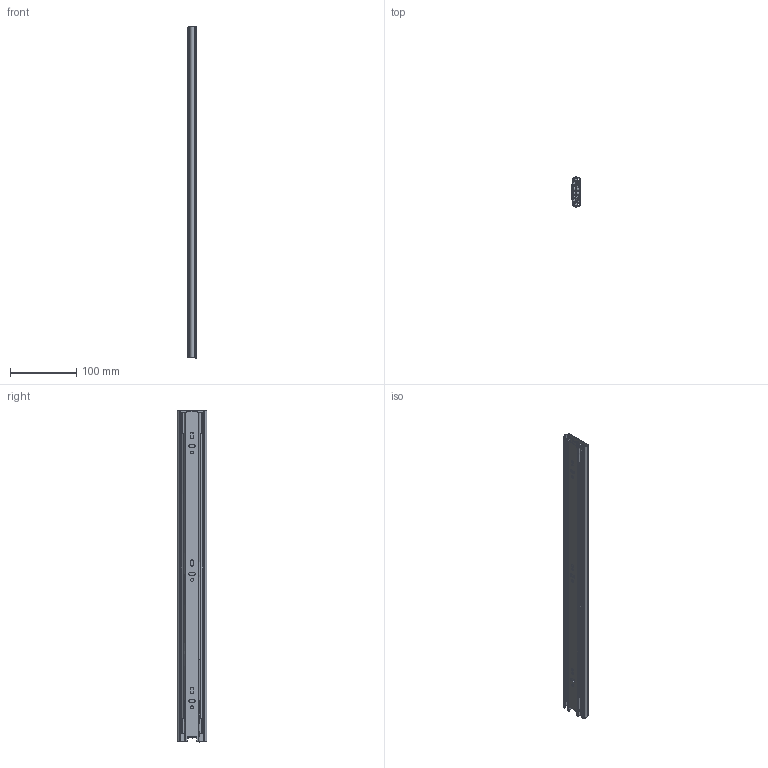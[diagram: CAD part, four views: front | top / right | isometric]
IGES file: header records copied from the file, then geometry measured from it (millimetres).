
Global section: file name: DR_L4-500; native system: Autodesk Inventor 2015; preprocessor: unknown; author: user; date: 20171011.083058; units: millimetre
Bounding box: 12.7 x 44.65 x 500 mm (x, y, z)
Volume: 145857.3 mm3; surface area: 206837.4 mm2
Topology: 7 solids, 7 shells, 285 faces, 815 edges, 544 vertices
Faces by surface type: bspline 285
